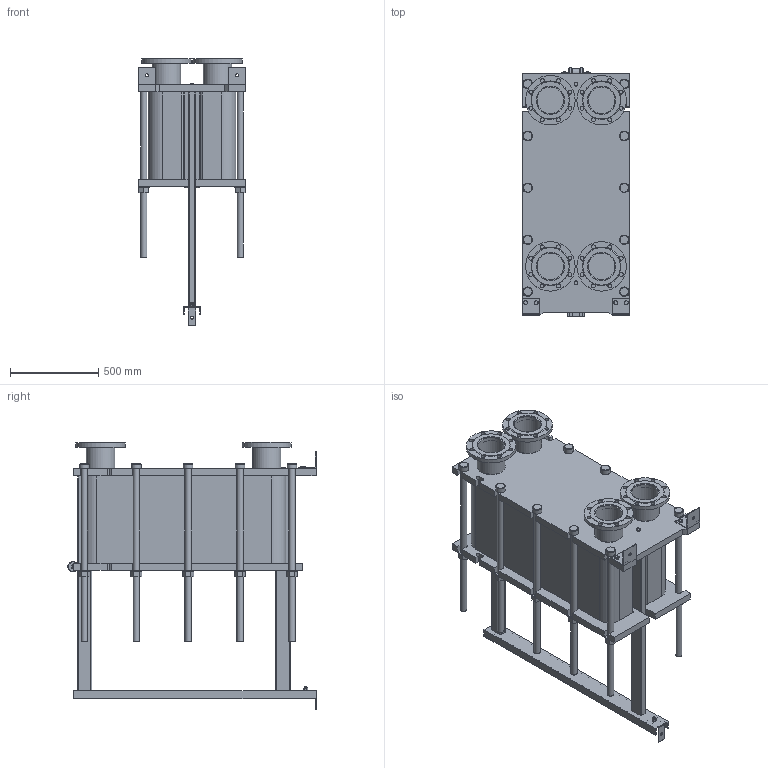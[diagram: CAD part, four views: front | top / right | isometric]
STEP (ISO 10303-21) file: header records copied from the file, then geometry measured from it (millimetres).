
FILE_DESCRIPTION(/* description */ (''),/* implementation_level */ '2;1');
FILE_NAME(/* name */ 'C:\Users\zhuro\Desktop\ENCO\TO\ЭН-041\ЭН-0,5-041-143-1.stp',/* time_stamp */ '2022-06-06T11:01:00+03:00',/* author */ ('zhuro'),/* organization */ (''),/* preprocessor_version */ 'ST-DEVELOPER v18.1',/* originating_system */ 'Autodesk Inventor 2022',/* authorisation */ '');
FILE_SCHEMA (('AUTOMOTIVE_DESIGN { 1 0 10303 214 3 1 1 }'));
Length unit declared in the file: millimetre
Products named in the file (1): ЭН-0,5-041-143-1
Bounding box: 610 x 1406.5 x 1512.5 mm (x, y, z)
Volume: 360973303.4 mm3; surface area: 9972625.9 mm2
Topology: 52 solids, 52 shells, 711 faces, 1696 edges, 1094 vertices
Faces by surface type: plane 487, cylinder 177, cone 41, torus 6
Full cylindrical faces by diameter (mm): 8 x4, 10 x2, 16 x8, 18 x3, 22 x32, 36 x24, 50 x1, 54 x10, 60 x12, 151 x4, 161 x8, 280 x4
Entity records: 22667 total; most frequent: CARTESIAN_POINT 5230, DIRECTION 3644, ORIENTED_EDGE 3392, EDGE_CURVE 1696, AXIS2_PLACEMENT_3D 1272, LINE 1100, VECTOR 1100, VERTEX_POINT 1094
